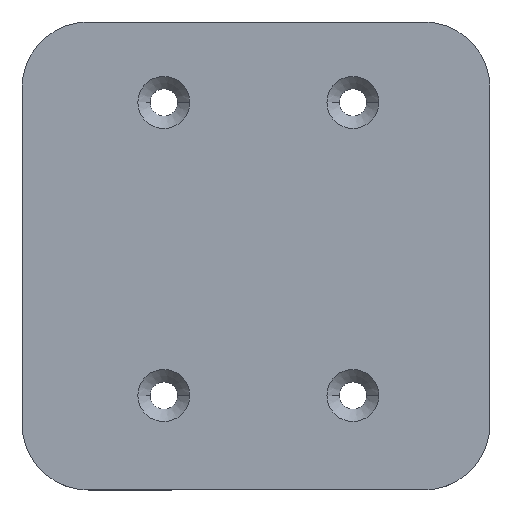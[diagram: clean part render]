
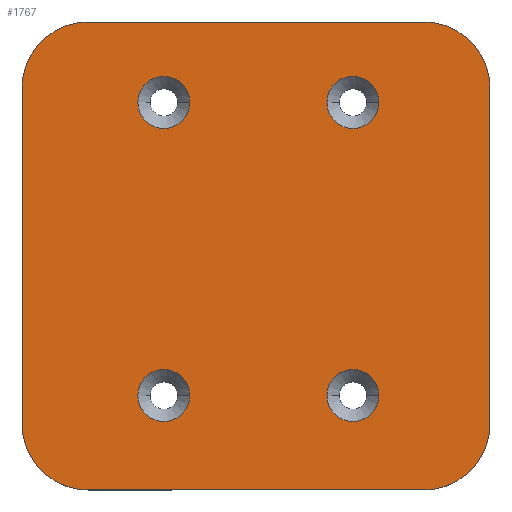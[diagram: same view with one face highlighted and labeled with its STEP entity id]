
A CAD part, top view. The second image highlights one B-rep face of the part: STEP entity #1767.
In plain terms, the highlighted planar face has unit normal (0, 0, 1).
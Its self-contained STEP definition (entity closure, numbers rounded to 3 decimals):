
#4 = DIRECTION ( 'NONE',  ( 1., 0., 0. ) ) ;
#8 = ORIENTED_EDGE ( 'NONE', *, *, #498, .F. ) ;
#12 = DIRECTION ( 'NONE',  ( 0., 0., 1. ) ) ;
#17 = ORIENTED_EDGE ( 'NONE', *, *, #2114, .F. ) ;
#27 = CARTESIAN_POINT ( 'NONE',  ( 66.268, -75.697, 3. ) ) ;
#36 = EDGE_CURVE ( 'NONE', #52, #1320, #664, .T. ) ;
#43 = CARTESIAN_POINT ( 'NONE',  ( 89.018, -75.697, 3. ) ) ;
#52 = VERTEX_POINT ( 'NONE', #2085 ) ;
#56 = CARTESIAN_POINT ( 'NONE',  ( 103.518, -78.687, 3. ) ) ;
#96 = EDGE_LOOP ( 'NONE', ( #8, #1825 ) ) ;
#97 = DIRECTION ( 'NONE',  ( -1., 0., 0. ) ) ;
#112 = PLANE ( 'NONE',  #847 ) ;
#117 = CARTESIAN_POINT ( 'NONE',  ( 54.018, -43.187, 3. ) ) ;
#163 = CARTESIAN_POINT ( 'NONE',  ( 69.018, -75.697, 3. ) ) ;
#198 = DIRECTION ( 'NONE',  ( 1., 0., 0. ) ) ;
#218 = AXIS2_PLACEMENT_3D ( 'NONE', #758, #2106, #412 ) ;
#271 = EDGE_CURVE ( 'NONE', #1502, #1659, #1439, .T. ) ;
#282 = EDGE_CURVE ( 'NONE', #344, #1915, #990, .T. ) ;
#295 = VERTEX_POINT ( 'NONE', #819 ) ;
#299 = FACE_BOUND ( 'NONE', #1032, .T. ) ;
#331 = LINE ( 'NONE', #2017, #1789 ) ;
#344 = VERTEX_POINT ( 'NONE', #460 ) ;
#356 = EDGE_CURVE ( 'NONE', #1659, #1502, #1683, .T. ) ;
#378 = CARTESIAN_POINT ( 'NONE',  ( 96.518, -85.687, 3. ) ) ;
#384 = AXIS2_PLACEMENT_3D ( 'NONE', #1974, #12, #692 ) ;
#394 = EDGE_CURVE ( 'NONE', #964, #1778, #331, .T. ) ;
#412 = DIRECTION ( 'NONE',  ( 1., 0., 0. ) ) ;
#426 = CARTESIAN_POINT ( 'NONE',  ( 96.518, -36.187, 3. ) ) ;
#431 = DIRECTION ( 'NONE',  ( 0., 0., -1. ) ) ;
#447 = CARTESIAN_POINT ( 'NONE',  ( 54.018, -78.687, 3. ) ) ;
#460 = CARTESIAN_POINT ( 'NONE',  ( 96.518, -36.187, 3. ) ) ;
#470 = FACE_BOUND ( 'NONE', #96, .T. ) ;
#498 = EDGE_CURVE ( 'NONE', #575, #702, #1776, .T. ) ;
#534 = VERTEX_POINT ( 'NONE', #56 ) ;
#546 = DIRECTION ( 'NONE',  ( -1., 0., 0. ) ) ;
#573 = ORIENTED_EDGE ( 'NONE', *, *, #36, .F. ) ;
#575 = VERTEX_POINT ( 'NONE', #1259 ) ;
#580 = ORIENTED_EDGE ( 'NONE', *, *, #271, .F. ) ;
#586 = EDGE_LOOP ( 'NONE', ( #731, #2107 ) ) ;
#604 = DIRECTION ( 'NONE',  ( -1., 0., 0. ) ) ;
#626 = DIRECTION ( 'NONE',  ( 1., 0., 0. ) ) ;
#664 = CIRCLE ( 'NONE', #954, 2.75 ) ;
#684 = CARTESIAN_POINT ( 'NONE',  ( 69.018, -75.697, 3. ) ) ;
#692 = DIRECTION ( 'NONE',  ( 1., 0., 0. ) ) ;
#700 = AXIS2_PLACEMENT_3D ( 'NONE', #722, #1580, #734 ) ;
#702 = VERTEX_POINT ( 'NONE', #1296 ) ;
#722 = CARTESIAN_POINT ( 'NONE',  ( 96.518, -78.687, 3. ) ) ;
#731 = ORIENTED_EDGE ( 'NONE', *, *, #2101, .F. ) ;
#734 = DIRECTION ( 'NONE',  ( -1., 0., 0. ) ) ;
#736 = CIRCLE ( 'NONE', #700, 7. ) ;
#756 = ORIENTED_EDGE ( 'NONE', *, *, #356, .F. ) ;
#758 = CARTESIAN_POINT ( 'NONE',  ( 89.018, -44.697, 3. ) ) ;
#765 = AXIS2_PLACEMENT_3D ( 'NONE', #1313, #1295, #1649 ) ;
#774 = AXIS2_PLACEMENT_3D ( 'NONE', #974, #431, #789 ) ;
#789 = DIRECTION ( 'NONE',  ( -1., 0., 0. ) ) ;
#803 = EDGE_CURVE ( 'NONE', #1915, #964, #2022, .T. ) ;
#819 = CARTESIAN_POINT ( 'NONE',  ( 61.018, -85.687, 3. ) ) ;
#847 = AXIS2_PLACEMENT_3D ( 'NONE', #943, #1449, #604 ) ;
#895 = EDGE_CURVE ( 'NONE', #1320, #52, #1099, .T. ) ;
#909 = DIRECTION ( 'NONE',  ( 0., 0., 1. ) ) ;
#918 = LINE ( 'NONE', #378, #1371 ) ;
#919 = AXIS2_PLACEMENT_3D ( 'NONE', #2171, #1779, #1624 ) ;
#943 = CARTESIAN_POINT ( 'NONE',  ( 96.518, -43.187, 3. ) ) ;
#951 = CARTESIAN_POINT ( 'NONE',  ( 89.018, -75.697, 3. ) ) ;
#954 = AXIS2_PLACEMENT_3D ( 'NONE', #684, #1885, #198 ) ;
#964 = VERTEX_POINT ( 'NONE', #117 ) ;
#965 = FACE_BOUND ( 'NONE', #1311, .T. ) ;
#974 = CARTESIAN_POINT ( 'NONE',  ( 96.518, -43.187, 3. ) ) ;
#977 = DIRECTION ( 'NONE',  ( -1., 0., 0. ) ) ;
#981 = VECTOR ( 'NONE', #2045, 1000. ) ;
#985 = DIRECTION ( 'NONE',  ( 0., 0., 1. ) ) ;
#986 = EDGE_CURVE ( 'NONE', #344, #1763, #1948, .T. ) ;
#988 = VERTEX_POINT ( 'NONE', #1469 ) ;
#990 = LINE ( 'NONE', #426, #1655 ) ;
#1016 = AXIS2_PLACEMENT_3D ( 'NONE', #2153, #1996, #626 ) ;
#1032 = EDGE_LOOP ( 'NONE', ( #573, #1071 ) ) ;
#1048 = ORIENTED_EDGE ( 'NONE', *, *, #394, .T. ) ;
#1071 = ORIENTED_EDGE ( 'NONE', *, *, #895, .F. ) ;
#1073 = ORIENTED_EDGE ( 'NONE', *, *, #1859, .F. ) ;
#1093 = CIRCLE ( 'NONE', #1695, 2.75 ) ;
#1099 = CIRCLE ( 'NONE', #1954, 2.75 ) ;
#1188 = CARTESIAN_POINT ( 'NONE',  ( 103.518, -43.187, 3. ) ) ;
#1205 = CARTESIAN_POINT ( 'NONE',  ( 66.268, -44.697, 3. ) ) ;
#1217 = EDGE_CURVE ( 'NONE', #1763, #534, #1352, .T. ) ;
#1259 = CARTESIAN_POINT ( 'NONE',  ( 91.768, -44.697, 3. ) ) ;
#1270 = CARTESIAN_POINT ( 'NONE',  ( 86.268, -75.697, 3. ) ) ;
#1295 = DIRECTION ( 'NONE',  ( 0., 0., 1. ) ) ;
#1296 = CARTESIAN_POINT ( 'NONE',  ( 86.268, -44.697, 3. ) ) ;
#1311 = EDGE_LOOP ( 'NONE', ( #756, #580 ) ) ;
#1313 = CARTESIAN_POINT ( 'NONE',  ( 69.018, -44.697, 3. ) ) ;
#1320 = VERTEX_POINT ( 'NONE', #27 ) ;
#1352 = LINE ( 'NONE', #1188, #981 ) ;
#1371 = VECTOR ( 'NONE', #546, 1000. ) ;
#1378 = DIRECTION ( 'NONE',  ( 0., 0., 1. ) ) ;
#1407 = EDGE_LOOP ( 'NONE', ( #1768, #1550, #1935, #1048, #1073, #2168, #17, #1485 ) ) ;
#1439 = CIRCLE ( 'NONE', #765, 2.75 ) ;
#1449 = DIRECTION ( 'NONE',  ( 0., 0., -1. ) ) ;
#1462 = CARTESIAN_POINT ( 'NONE',  ( 61.018, -78.687, 3. ) ) ;
#1469 = CARTESIAN_POINT ( 'NONE',  ( 91.768, -75.697, 3. ) ) ;
#1473 = VERTEX_POINT ( 'NONE', #1811 ) ;
#1485 = ORIENTED_EDGE ( 'NONE', *, *, #1217, .F. ) ;
#1502 = VERTEX_POINT ( 'NONE', #1205 ) ;
#1550 = ORIENTED_EDGE ( 'NONE', *, *, #282, .T. ) ;
#1580 = DIRECTION ( 'NONE',  ( 0., 0., -1. ) ) ;
#1604 = CARTESIAN_POINT ( 'NONE',  ( 71.768, -44.697, 3. ) ) ;
#1623 = VERTEX_POINT ( 'NONE', #1270 ) ;
#1624 = DIRECTION ( 'NONE',  ( 1., 0., 0. ) ) ;
#1628 = FACE_OUTER_BOUND ( 'NONE', #1407, .T. ) ;
#1649 = DIRECTION ( 'NONE',  ( 1., 0., 0. ) ) ;
#1655 = VECTOR ( 'NONE', #977, 1000. ) ;
#1659 = VERTEX_POINT ( 'NONE', #1604 ) ;
#1662 = CIRCLE ( 'NONE', #1874, 2.75 ) ;
#1683 = CIRCLE ( 'NONE', #1016, 2.75 ) ;
#1692 = AXIS2_PLACEMENT_3D ( 'NONE', #1462, #1840, #97 ) ;
#1695 = AXIS2_PLACEMENT_3D ( 'NONE', #43, #909, #1901 ) ;
#1701 = CARTESIAN_POINT ( 'NONE',  ( 61.018, -36.187, 3. ) ) ;
#1763 = VERTEX_POINT ( 'NONE', #2128 ) ;
#1767 = ADVANCED_FACE ( 'NONE', ( #965, #299, #2152, #470, #1628 ), #112, .F. ) ;
#1768 = ORIENTED_EDGE ( 'NONE', *, *, #986, .F. ) ;
#1776 = CIRCLE ( 'NONE', #218, 2.75 ) ;
#1778 = VERTEX_POINT ( 'NONE', #447 ) ;
#1779 = DIRECTION ( 'NONE',  ( 0., 0., 1. ) ) ;
#1789 = VECTOR ( 'NONE', #2029, 1000. ) ;
#1805 = DIRECTION ( 'NONE',  ( 1., 0., 0. ) ) ;
#1811 = CARTESIAN_POINT ( 'NONE',  ( 96.518, -85.687, 3. ) ) ;
#1825 = ORIENTED_EDGE ( 'NONE', *, *, #2169, .F. ) ;
#1840 = DIRECTION ( 'NONE',  ( 0., 0., -1. ) ) ;
#1859 = EDGE_CURVE ( 'NONE', #295, #1778, #2192, .T. ) ;
#1874 = AXIS2_PLACEMENT_3D ( 'NONE', #951, #985, #1805 ) ;
#1885 = DIRECTION ( 'NONE',  ( 0., 0., 1. ) ) ;
#1901 = DIRECTION ( 'NONE',  ( 1., 0., 0. ) ) ;
#1915 = VERTEX_POINT ( 'NONE', #1701 ) ;
#1935 = ORIENTED_EDGE ( 'NONE', *, *, #803, .T. ) ;
#1945 = CIRCLE ( 'NONE', #919, 2.75 ) ;
#1948 = CIRCLE ( 'NONE', #774, 7. ) ;
#1954 = AXIS2_PLACEMENT_3D ( 'NONE', #163, #1378, #4 ) ;
#1974 = CARTESIAN_POINT ( 'NONE',  ( 61.018, -43.187, 3. ) ) ;
#1996 = DIRECTION ( 'NONE',  ( 0., 0., 1. ) ) ;
#2017 = CARTESIAN_POINT ( 'NONE',  ( 54.018, -43.187, 3. ) ) ;
#2018 = EDGE_CURVE ( 'NONE', #1473, #295, #918, .T. ) ;
#2022 = CIRCLE ( 'NONE', #384, 7. ) ;
#2029 = DIRECTION ( 'NONE',  ( 0., -1., 0. ) ) ;
#2045 = DIRECTION ( 'NONE',  ( 0., -1., 0. ) ) ;
#2085 = CARTESIAN_POINT ( 'NONE',  ( 71.768, -75.697, 3. ) ) ;
#2101 = EDGE_CURVE ( 'NONE', #988, #1623, #1093, .T. ) ;
#2106 = DIRECTION ( 'NONE',  ( 0., 0., 1. ) ) ;
#2107 = ORIENTED_EDGE ( 'NONE', *, *, #2167, .F. ) ;
#2114 = EDGE_CURVE ( 'NONE', #534, #1473, #736, .T. ) ;
#2128 = CARTESIAN_POINT ( 'NONE',  ( 103.518, -43.187, 3. ) ) ;
#2152 = FACE_BOUND ( 'NONE', #586, .T. ) ;
#2153 = CARTESIAN_POINT ( 'NONE',  ( 69.018, -44.697, 3. ) ) ;
#2167 = EDGE_CURVE ( 'NONE', #1623, #988, #1662, .T. ) ;
#2168 = ORIENTED_EDGE ( 'NONE', *, *, #2018, .F. ) ;
#2169 = EDGE_CURVE ( 'NONE', #702, #575, #1945, .T. ) ;
#2171 = CARTESIAN_POINT ( 'NONE',  ( 89.018, -44.697, 3. ) ) ;
#2192 = CIRCLE ( 'NONE', #1692, 7. ) ;
